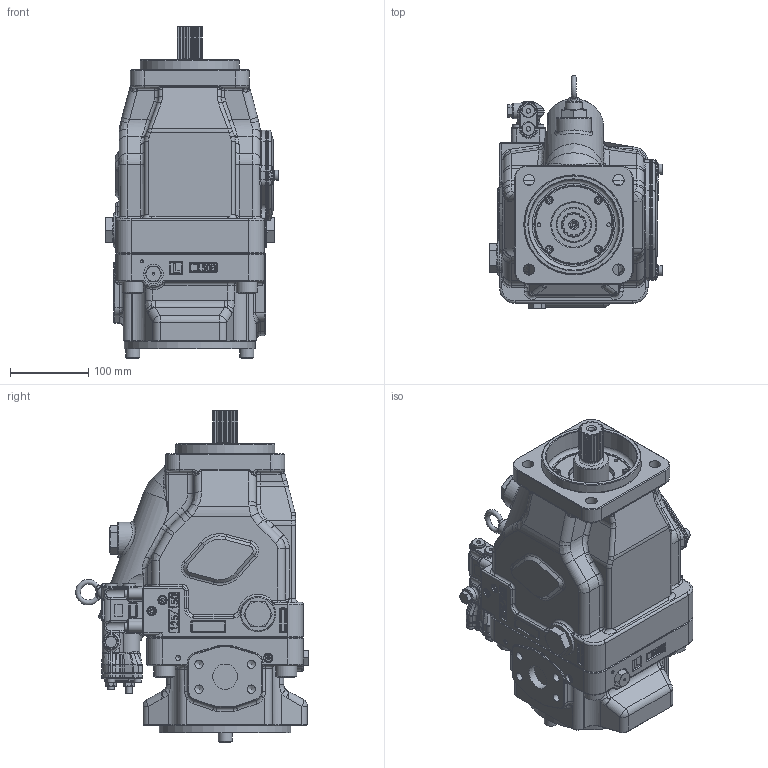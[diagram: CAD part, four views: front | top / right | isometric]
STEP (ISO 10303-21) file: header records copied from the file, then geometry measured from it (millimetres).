
FILE_DESCRIPTION(/* description */ (''),/* implementation_level */ '2;1');
FILE_NAME(/* name */ 'K3VLS150-1NRCH-L1A.stp',/* time_stamp */ '2025-09-23T14:51:09+01:00',/* author */ ('jhatcher'),/* organization */ (''),/* preprocessor_version */ 'ST-DEVELOPER v20',/* originating_system */ 'Autodesk Inventor 2024',/* authorisation */ '');
FILE_SCHEMA (('AUTOMOTIVE_DESIGN { 1 0 10303 214 3 1 1 }'));
Products named in the file (1): K3VLS150-1NRCH-L1A
Bounding box: 222.31 x 297.86 x 424.5 mm (x, y, z)
Volume: 11394910.1 mm3; surface area: 439855.6 mm2
Topology: 1 solids, 1 shells, 3121 faces, 7816 edges, 4823 vertices
Faces by surface type: plane 1364, bspline 625, cylinder 606, cone 343, torus 171, sphere 12
Full cylindrical faces by diameter (mm): 4 x4, 4.917 x2, 6.2 x1, 8 x2, 9.4 x4, 10 x12, 10.106 x4, 10.592 x8, 11 x8, 12 x4, 13 x2, 14.5 x4, 16 x2, 17 x3, 18 x4, 20 x1, 25 x1, 26 x1, 27 x4, 29 x4, 32 x1, 45 x2, 47 x1, 57 x1, 64 x1, 100 x1, 102 x1, 116 x1, 127 x1, 168 x1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
Entity records: 108692 total; most frequent: CARTESIAN_POINT 38350, ORIENTED_EDGE 15482, DIRECTION 13224, EDGE_CURVE 7741, VERTEX_POINT 4823, AXIS2_PLACEMENT_3D 4637, LINE 3950, VECTOR 3950
